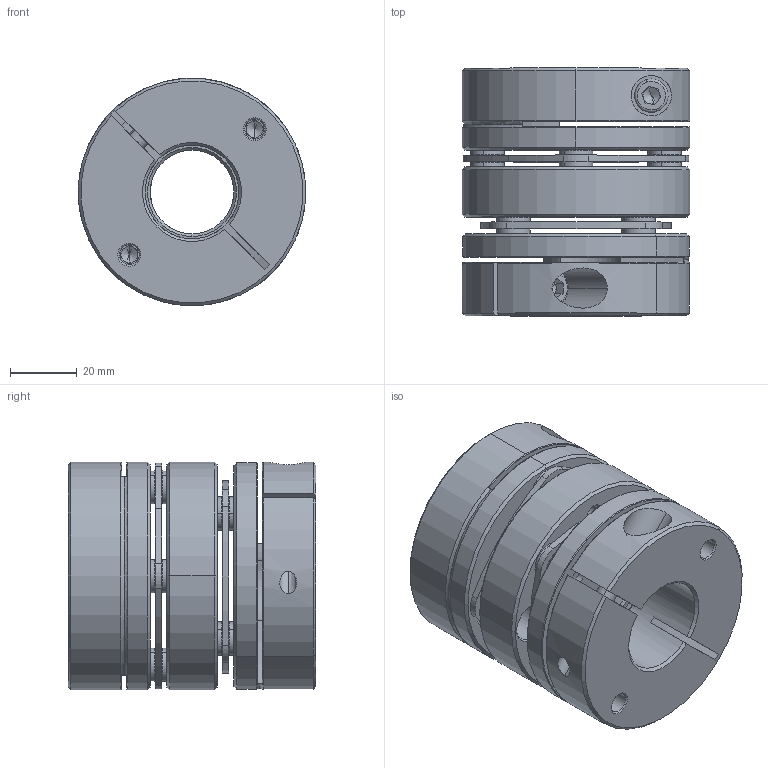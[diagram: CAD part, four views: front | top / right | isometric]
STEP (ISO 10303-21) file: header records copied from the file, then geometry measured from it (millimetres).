
FILE_DESCRIPTION (( 'STEP AP203' ), '1' );
FILE_NAME ('LD2-D68-25-28.STEP', '2021-10-26T08:45:09', ( '' ), ( '' ), 'SwSTEP 2.0', 'SolidWorks 2018', '' );
FILE_SCHEMA (( 'CONFIG_CONTROL_DESIGN' ));
Length unit declared in the file: millimetre
Products named in the file (2): LD2-D68-25-28; 錨璃102^LD2-D68
Assembly tree (1 placements, depth 2):
  LD2-D68-25-28
    錨璃102^LD2-D68
Bounding box: 68 x 74 x 68 mm (x, y, z)
Volume: 178869.6 mm3; surface area: 63656.5 mm2
Topology: 1 solids, 27 shells, 732 faces, 1696 edges, 1032 vertices
Faces by surface type: cylinder 256, cone 226, plane 220, torus 30
Entity records: 21398 total; most frequent: DIRECTION 3974, CARTESIAN_POINT 3912, ORIENTED_EDGE 3344, EDGE_CURVE 1672, AXIS2_PLACEMENT_3D 1614, VERTEX_POINT 1032, CIRCLE 878, EDGE_LOOP 868
